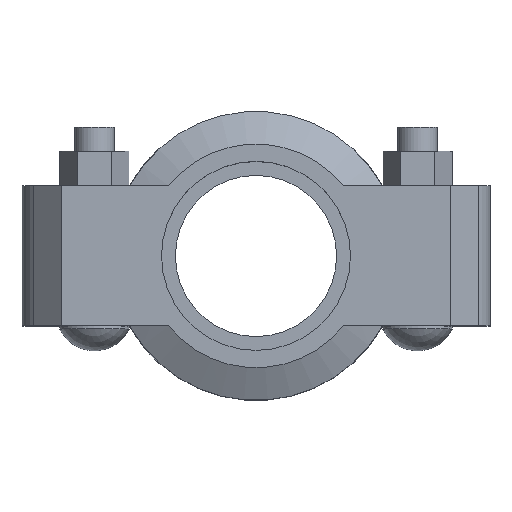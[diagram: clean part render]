
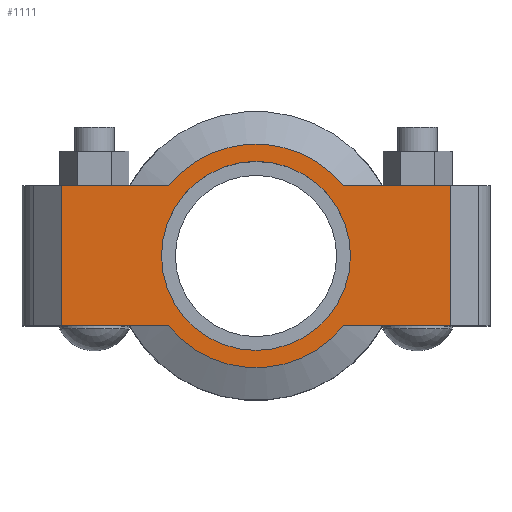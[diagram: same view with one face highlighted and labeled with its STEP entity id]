
A CAD part, top view. The second image highlights one B-rep face of the part: STEP entity #1111.
In plain terms, the highlighted planar face has unit normal (0, 0, 1).
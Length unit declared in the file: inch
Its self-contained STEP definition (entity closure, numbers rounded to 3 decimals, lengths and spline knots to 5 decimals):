
#75=FACE_BOUND('',#226,.T.);
#105=PLANE('',#1226);
#153=FACE_OUTER_BOUND('',#225,.T.);
#225=EDGE_LOOP('',(#888,#889,#890,#891,#892,#893,#894,#895));
#226=EDGE_LOOP('',(#896));
#298=LINE('',#1752,#385);
#313=LINE('',#1811,#400);
#321=LINE('',#1841,#408);
#323=LINE('',#1844,#410);
#324=LINE('',#1849,#411);
#325=LINE('',#1850,#412);
#385=VECTOR('',#1433,0.3937);
#400=VECTOR('',#1468,0.3937);
#408=VECTOR('',#1488,0.3937);
#410=VECTOR('',#1492,0.3937);
#411=VECTOR('',#1497,0.3937);
#412=VECTOR('',#1498,0.3937);
#437=CIRCLE('',#1183,1.1875);
#453=CIRCLE('',#1227,1.405);
#454=CIRCLE('',#1228,1.405);
#480=VERTEX_POINT('',#1644);
#515=VERTEX_POINT('',#1749);
#516=VERTEX_POINT('',#1751);
#537=VERTEX_POINT('',#1806);
#538=VERTEX_POINT('',#1810);
#547=VERTEX_POINT('',#1836);
#548=VERTEX_POINT('',#1840);
#549=VERTEX_POINT('',#1846);
#550=VERTEX_POINT('',#1848);
#581=EDGE_CURVE('',#480,#480,#437,.T.);
#632=EDGE_CURVE('',#516,#515,#298,.T.);
#657=EDGE_CURVE('',#538,#537,#313,.T.);
#670=EDGE_CURVE('',#548,#547,#321,.T.);
#672=EDGE_CURVE('',#548,#515,#323,.T.);
#673=EDGE_CURVE('',#547,#549,#453,.T.);
#674=EDGE_CURVE('',#549,#550,#324,.T.);
#675=EDGE_CURVE('',#538,#550,#325,.T.);
#676=EDGE_CURVE('',#537,#516,#454,.T.);
#888=ORIENTED_EDGE('',*,*,#672,.F.);
#889=ORIENTED_EDGE('',*,*,#670,.T.);
#890=ORIENTED_EDGE('',*,*,#673,.T.);
#891=ORIENTED_EDGE('',*,*,#674,.T.);
#892=ORIENTED_EDGE('',*,*,#675,.F.);
#893=ORIENTED_EDGE('',*,*,#657,.T.);
#894=ORIENTED_EDGE('',*,*,#676,.T.);
#895=ORIENTED_EDGE('',*,*,#632,.T.);
#896=ORIENTED_EDGE('',*,*,#581,.T.);
#1111=ADVANCED_FACE('',(#153,#75),#105,.T.);
#1183=AXIS2_PLACEMENT_3D('',#1646,#1337,#1338);
#1226=AXIS2_PLACEMENT_3D('',#1845,#1493,#1494);
#1227=AXIS2_PLACEMENT_3D('',#1847,#1495,#1496);
#1228=AXIS2_PLACEMENT_3D('',#1851,#1499,#1500);
#1337=DIRECTION('center_axis',(0.,0.,-1.));
#1338=DIRECTION('ref_axis',(1.,0.,0.));
#1433=DIRECTION('',(1.,0.,0.));
#1468=DIRECTION('',(1.,0.,0.));
#1488=DIRECTION('',(-1.,0.,0.));
#1492=DIRECTION('',(0.,-1.,0.));
#1493=DIRECTION('center_axis',(0.,0.,1.));
#1494=DIRECTION('ref_axis',(-1.,0.,0.));
#1495=DIRECTION('center_axis',(0.,0.,1.));
#1496=DIRECTION('ref_axis',(1.,0.,0.));
#1497=DIRECTION('',(-1.,0.,0.));
#1498=DIRECTION('',(0.,1.,0.));
#1499=DIRECTION('center_axis',(0.,0.,1.));
#1500=DIRECTION('ref_axis',(1.,0.,0.));
#1644=CARTESIAN_POINT('',(-1.1875,0.,0.94));
#1646=CARTESIAN_POINT('Origin',(0.,0.,0.94));
#1749=CARTESIAN_POINT('',(2.44,-0.88,0.94));
#1751=CARTESIAN_POINT('',(1.09527,-0.88,0.94));
#1752=CARTESIAN_POINT('',(-2.94,-0.88,0.94));
#1806=CARTESIAN_POINT('',(-1.09527,-0.88,0.94));
#1810=CARTESIAN_POINT('',(-2.44,-0.88,0.94));
#1811=CARTESIAN_POINT('',(-2.94,-0.88,0.94));
#1836=CARTESIAN_POINT('',(1.09527,0.88,0.94));
#1840=CARTESIAN_POINT('',(2.44,0.88,0.94));
#1841=CARTESIAN_POINT('',(2.94,0.88,0.94));
#1844=CARTESIAN_POINT('',(2.44,-0.44,0.94));
#1845=CARTESIAN_POINT('Origin',(0.,0.,
0.94));
#1846=CARTESIAN_POINT('',(-1.09527,0.88,0.94));
#1847=CARTESIAN_POINT('Origin',(0.,0.,0.94));
#1848=CARTESIAN_POINT('',(-2.44,0.88,0.94));
#1849=CARTESIAN_POINT('',(2.94,0.88,0.94));
#1850=CARTESIAN_POINT('',(-2.44,0.44,0.94));
#1851=CARTESIAN_POINT('Origin',(0.,0.,0.94));
